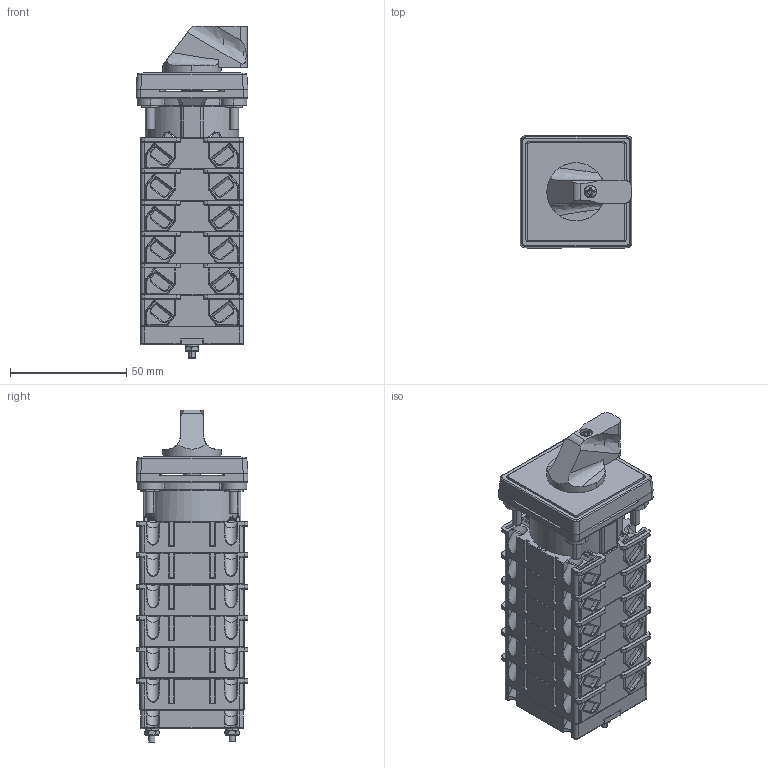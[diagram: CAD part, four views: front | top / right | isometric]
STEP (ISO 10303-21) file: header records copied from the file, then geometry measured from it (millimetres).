
FILE_DESCRIPTION (( 'STEP AP214' ), '1' );
FILE_NAME ('Ïåðåêëþ÷àòåëü 4G10-XXXX-U-R012,R014,S24 6ê.STEP', '2022-11-24T08:01:27', ( '' ), ( '' ), 'SwSTEP 2.0', 'SolidWorks 2018', '' );
FILE_SCHEMA (( 'AUTOMOTIVE_DESIGN' ));
Length unit declared in the file: millimetre
Products named in the file (1): Ïåðåêëþ÷àòåëü 4G10-XXXX-U-R012,R014,S24 6ê
Bounding box: 48 x 48 x 142.6 mm (x, y, z)
Volume: 204473.7 mm3; surface area: 91547.7 mm2
Topology: 38 solids, 86 shells, 5830 faces, 14929 edges, 9442 vertices
Faces by surface type: plane 3269, cylinder 1883, torus 288, cone 235, bspline 103, sphere 52
Entity records: 251338 total; most frequent: CARTESIAN_POINT 47075, ORIENTED_EDGE 29744, DIRECTION 28557, EDGE_CURVE 14872, VECTOR 9899, LINE 9899, VERTEX_POINT 9430, AXIS2_PLACEMENT_3D 9329
